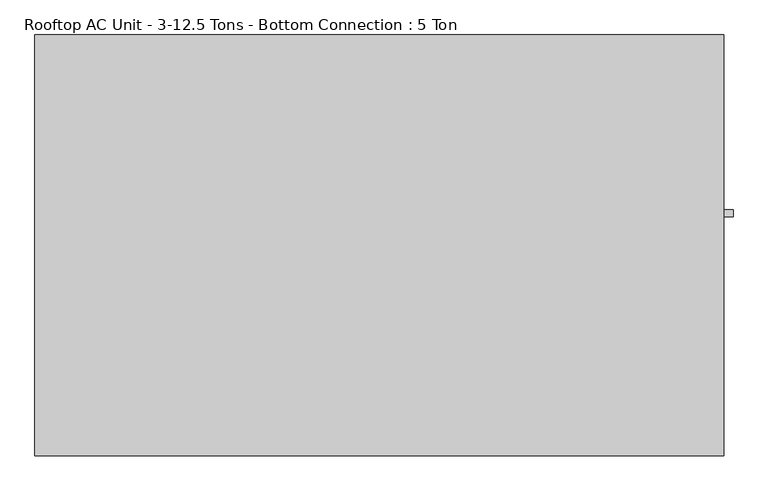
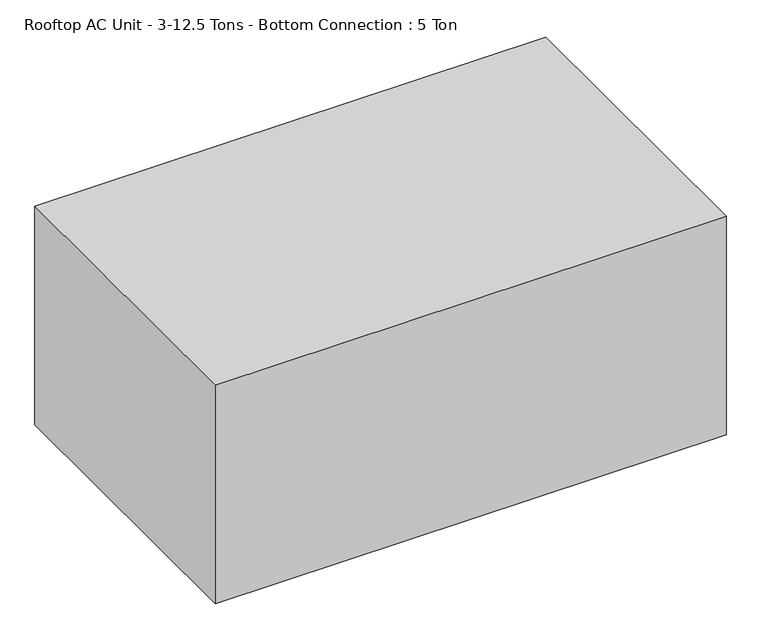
"""IFC4 building model written with IfcOpenShell, lengths in millimetres: proxy geometry, Rooftop AC Unit - 3-12.5 Tons - Bottom Connection : 5 Ton."""

from ifc_helpers import new_model, si_unit, point, frame, frame_2d, origin, place, context, project, spatial, circle_curve, trimmed, segment, composite_curve, outline, extrude, faceted_brep, source, transform, mapped, element, save


def rooftop_ac_unit_3_12_5_tons_bottom_connection_5_ton_91a4ad55(model_context):
    return source(origin(), model_context, "Body", "SolidModel", [
        extrude(outline(composite_curve([segment(trimmed(circle_curve(frame_2d((658.8125, 177.8)), 9.525), [point((649.2875, 177.8))], [point((668.3375, 177.8))], False, "CARTESIAN"), True, "CONTINUOUS"), segment(trimmed(circle_curve(frame_2d((658.8125, 177.8)), 9.525), [point((668.3375, 177.8))], [point((649.2875, 177.8))], False, "CARTESIAN"), True, "CONTINUOUS")], self_intersect=False)), frame((0.0, 0.0, 0.0), z_axis=(1.0, 0.0, 0.0), x_axis=(0.0, 1.0, 0.0)), (0.0, 0.0, 1.0), 25.4),
        faceted_brep([(-1871.6625, 0.0, 846.1375), (0.0, 0.0, 846.1375), (0.0, 1143.0, 846.1375), (-1871.6625, 1143.0, 846.1375), (-1871.6625, 0.0, 0.0), (-1871.6625, 1143.0, 0.0), (0.0, 1143.0, 0.0), (0.0, 0.0, 0.0), (-411.1625, 138.1125, 0.0), (-80.9625, 138.1125, 0.0), (-80.9625, 595.3125, 0.0), (-411.1625, 595.3125, 0.0), (-80.9625, 998.5375, 0.0), (-741.3625, 998.5375, 0.0), (-741.3625, 719.1375, 0.0), (-80.9625, 719.1375, 0.0), (-411.1625, 138.1125, 25.4), (-411.1625, 595.3125, 25.4), (-80.9625, 595.3125, 25.4), (-80.9625, 138.1125, 25.4), (-80.9625, 998.5375, 25.4), (-80.9625, 719.1375, 25.4), (-741.3625, 719.1375, 25.4), (-741.3625, 998.5375, 25.4)], [[[0, 1, 2, 3]], [[4, 5, 6, 7], [8, 9, 10, 11], [12, 13, 14, 15]], [[1, 0, 4, 7]], [[2, 1, 7, 6]], [[3, 2, 6, 5]], [[0, 3, 5, 4]], [[16, 17, 18, 19]], [[16, 19, 9, 8]], [[19, 18, 10, 9]], [[18, 17, 11, 10]], [[17, 16, 8, 11]], [[20, 21, 22, 23]], [[20, 23, 13, 12]], [[23, 22, 14, 13]], [[22, 21, 15, 14]], [[21, 20, 12, 15]]]),
    ])


if __name__ == "__main__":
    model = new_model("IFC4")
    model_context = context("Model", 3, world=origin())
    ifc_project = project(units=[si_unit("LENGTHUNIT", "METRE", prefix="MILLI")], contexts=[model_context])
    site = spatial("IfcSite", under=ifc_project)
    building = spatial("IfcBuilding", under=site)
    placement = place(None, origin())
    rooftop_ac_unit_3_12_5_tons_bottom_connection_5_ton_shape = rooftop_ac_unit_3_12_5_tons_bottom_connection_5_ton_91a4ad55(model_context)
    element("IfcBuildingElementProxy", 1, Name="Rooftop AC Unit - 3-12.5 Tons - Bottom Connection : 5 Ton", ObjectType="Rooftop AC Unit - 3-12.5 Tons - Bottom Connection : 5 Ton", at=placement, inside=building, context=model_context, shape_type="MappedRepresentation", body=[
        mapped(rooftop_ac_unit_3_12_5_tons_bottom_connection_5_ton_shape, transform((0.0, 0.0, 0.0), x_axis=(1.0, 0.0, 0.0), y_axis=(0.0, 1.0, 0.0), z_axis=(0.0, 0.0, 1.0))),
    ])
    save(model, "model.ifc")
